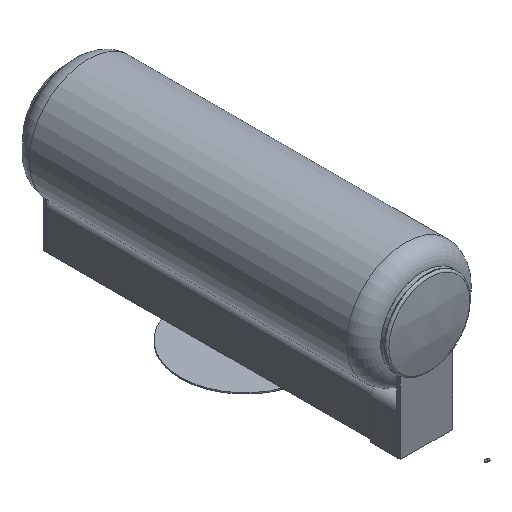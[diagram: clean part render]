
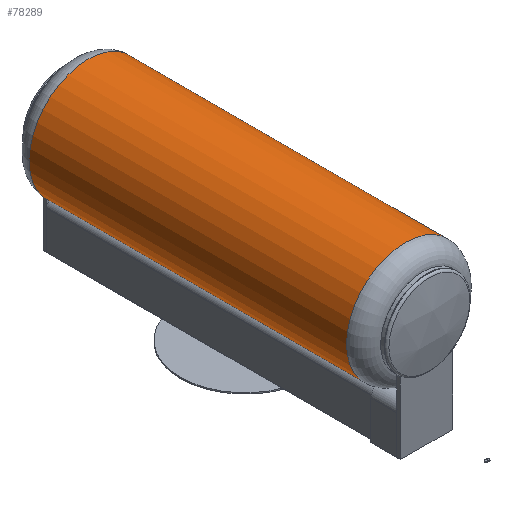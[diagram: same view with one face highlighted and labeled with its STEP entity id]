
A CAD part, isometric view. The second image highlights one B-rep face of the part: STEP entity #78289.
In plain terms, the highlighted cylindrical face has radius 50 mm (diameter 100 mm), a full revolution.
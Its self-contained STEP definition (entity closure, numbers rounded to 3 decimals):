
#13010=FACE_OUTER_BOUND('',#17352,.T.);
#17352=EDGE_LOOP('',(#73620,#73621,#73622,#73623,#73624,#73625));
#24800=LINE('',#138074,#32246);
#32246=VECTOR('',#102437,50.);
#33932=CIRCLE('',#84394,50.);
#33933=CIRCLE('',#84395,50.);
#33938=CIRCLE('',#84401,50.);
#33939=CIRCLE('',#84402,50.);
#41081=VERTEX_POINT('',#138037);
#41082=VERTEX_POINT('',#138038);
#41085=VERTEX_POINT('',#138047);
#41086=VERTEX_POINT('',#138049);
#51920=EDGE_CURVE('',#41081,#41082,#33932,.T.);
#51921=EDGE_CURVE('',#41082,#41081,#33933,.T.);
#51926=EDGE_CURVE('',#41085,#41086,#33938,.T.);
#51927=EDGE_CURVE('',#41086,#41085,#33939,.T.);
#51937=EDGE_CURVE('',#41086,#41081,#24800,.T.);
#73620=ORIENTED_EDGE('',*,*,#51927,.F.);
#73621=ORIENTED_EDGE('',*,*,#51937,.T.);
#73622=ORIENTED_EDGE('',*,*,#51920,.T.);
#73623=ORIENTED_EDGE('',*,*,#51921,.T.);
#73624=ORIENTED_EDGE('',*,*,#51937,.F.);
#73625=ORIENTED_EDGE('',*,*,#51926,.F.);
#74309=CYLINDRICAL_SURFACE('',#84416,50.);
#78289=ADVANCED_FACE('',(#13010),#74309,.T.);
#84394=AXIS2_PLACEMENT_3D('',#138039,#102389,#102390);
#84395=AXIS2_PLACEMENT_3D('',#138040,#102391,#102392);
#84401=AXIS2_PLACEMENT_3D('',#138050,#102403,#102404);
#84402=AXIS2_PLACEMENT_3D('',#138051,#102405,#102406);
#84416=AXIS2_PLACEMENT_3D('',#138073,#102435,#102436);
#102389=DIRECTION('center_axis',(1.,0.,0.));
#102390=DIRECTION('ref_axis',(0.,0.,-1.));
#102391=DIRECTION('center_axis',(1.,0.,0.));
#102392=DIRECTION('ref_axis',(0.,0.,-1.));
#102403=DIRECTION('center_axis',(1.,0.,0.));
#102404=DIRECTION('ref_axis',(0.,0.,-1.));
#102405=DIRECTION('center_axis',(1.,0.,0.));
#102406=DIRECTION('ref_axis',(0.,0.,-1.));
#102435=DIRECTION('center_axis',(1.,0.,0.));
#102436=DIRECTION('ref_axis',(0.,1.,0.));
#102437=DIRECTION('',(-1.,0.,0.));
#138037=CARTESIAN_POINT('',(15.,-50.,0.));
#138038=CARTESIAN_POINT('',(15.,0.,50.));
#138039=CARTESIAN_POINT('Origin',(15.,0.,0.));
#138040=CARTESIAN_POINT('Origin',(15.,0.,0.));
#138047=CARTESIAN_POINT('',(285.,0.,50.));
#138049=CARTESIAN_POINT('',(285.,-50.,0.));
#138050=CARTESIAN_POINT('Origin',(285.,0.,0.));
#138051=CARTESIAN_POINT('Origin',(285.,0.,0.));
#138073=CARTESIAN_POINT('Origin',(150.,0.,0.));
#138074=CARTESIAN_POINT('',(150.,-50.,0.));
